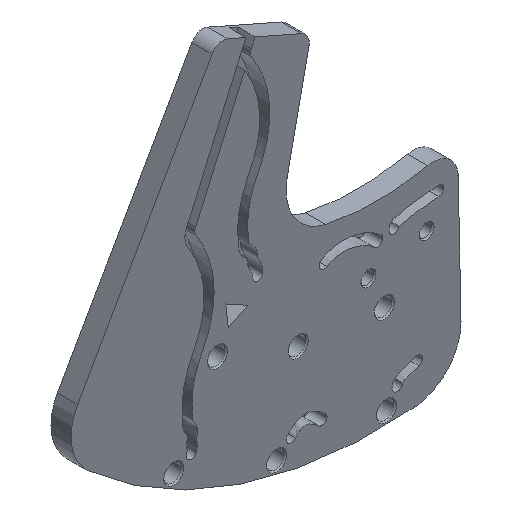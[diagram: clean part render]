
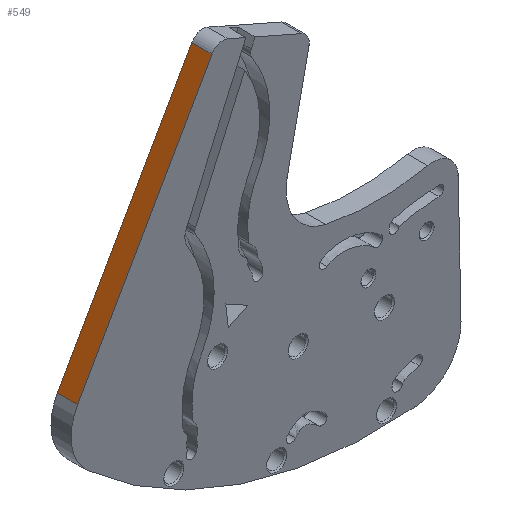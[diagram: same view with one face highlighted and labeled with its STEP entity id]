
A CAD part, isometric view. The second image highlights one B-rep face of the part: STEP entity #549.
In plain terms, the highlighted planar face has unit normal (-0.869, 0, 0.494).
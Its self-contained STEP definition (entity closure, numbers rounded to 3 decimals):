
#235=FACE_OUTER_BOUND('',#1952,.T.);
#549=ADVANCED_FACE('',(#235),#875,.F.);
#875=PLANE('',#6242);
#1114=LINE('',#8060,#1413);
#1118=LINE('',#9127,#1417);
#1159=LINE('',#10221,#1465);
#1160=LINE('',#10222,#1466);
#1413=VECTOR('',#6565,1.);
#1417=VECTOR('',#6599,1.);
#1465=VECTOR('',#6737,1.);
#1466=VECTOR('',#6738,1.);
#1952=EDGE_LOOP('',(#2680,#2681,#2682,#2683));
#2680=ORIENTED_EDGE('',*,*,#4705,.F.);
#2681=ORIENTED_EDGE('',*,*,#4979,.T.);
#2682=ORIENTED_EDGE('',*,*,#4888,.T.);
#2683=ORIENTED_EDGE('',*,*,#4980,.T.);
#4113=VERTEX_POINT('',#8059);
#4114=VERTEX_POINT('',#8061);
#4296=VERTEX_POINT('',#9128);
#4297=VERTEX_POINT('',#9129);
#4705=EDGE_CURVE('',#4113,#4114,#1114,.T.);
#4888=EDGE_CURVE('',#4296,#4297,#1118,.T.);
#4979=EDGE_CURVE('',#4113,#4296,#1159,.T.);
#4980=EDGE_CURVE('',#4297,#4114,#1160,.T.);
#6242=AXIS2_PLACEMENT_3D('',#10223,#6739,#6740);
#6565=DIRECTION('',(0.494,0.,0.869));
#6599=DIRECTION('',(0.494,0.,0.869));
#6737=DIRECTION('',(0.,-1.,0.));
#6738=DIRECTION('',(0.,1.,0.));
#6739=DIRECTION('',(0.869,0.,-0.494));
#6740=DIRECTION('',(0.494,0.,0.869));
#8059=CARTESIAN_POINT('',(-315.456,-453.,-17.208));
#8060=CARTESIAN_POINT('',(-323.066,-453.,-30.597));
#8061=CARTESIAN_POINT('',(-262.063,-453.,76.727));
#9127=CARTESIAN_POINT('',(-323.066,-461.,-30.597));
#9128=CARTESIAN_POINT('',(-315.456,-461.,-17.208));
#9129=CARTESIAN_POINT('',(-262.063,-461.,76.727));
#10221=CARTESIAN_POINT('',(-315.456,-453.,-17.208));
#10222=CARTESIAN_POINT('',(-262.063,-453.,76.727));
#10223=CARTESIAN_POINT('',(-323.066,-453.,-30.597));
